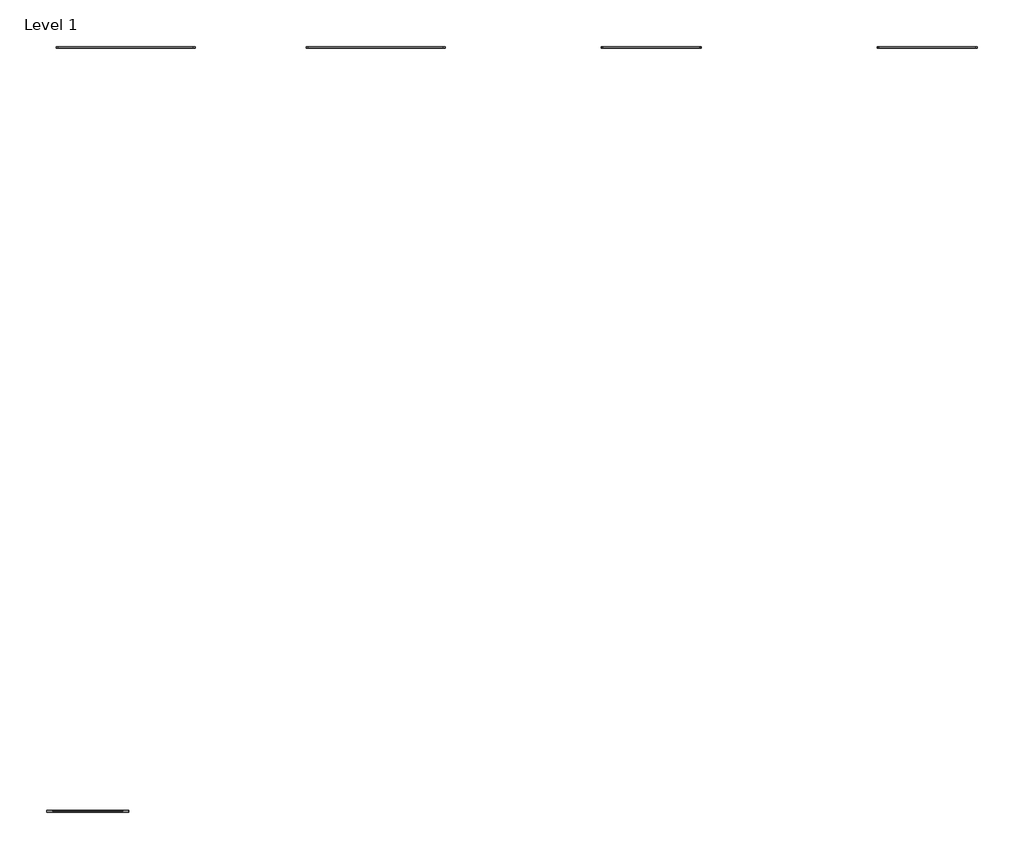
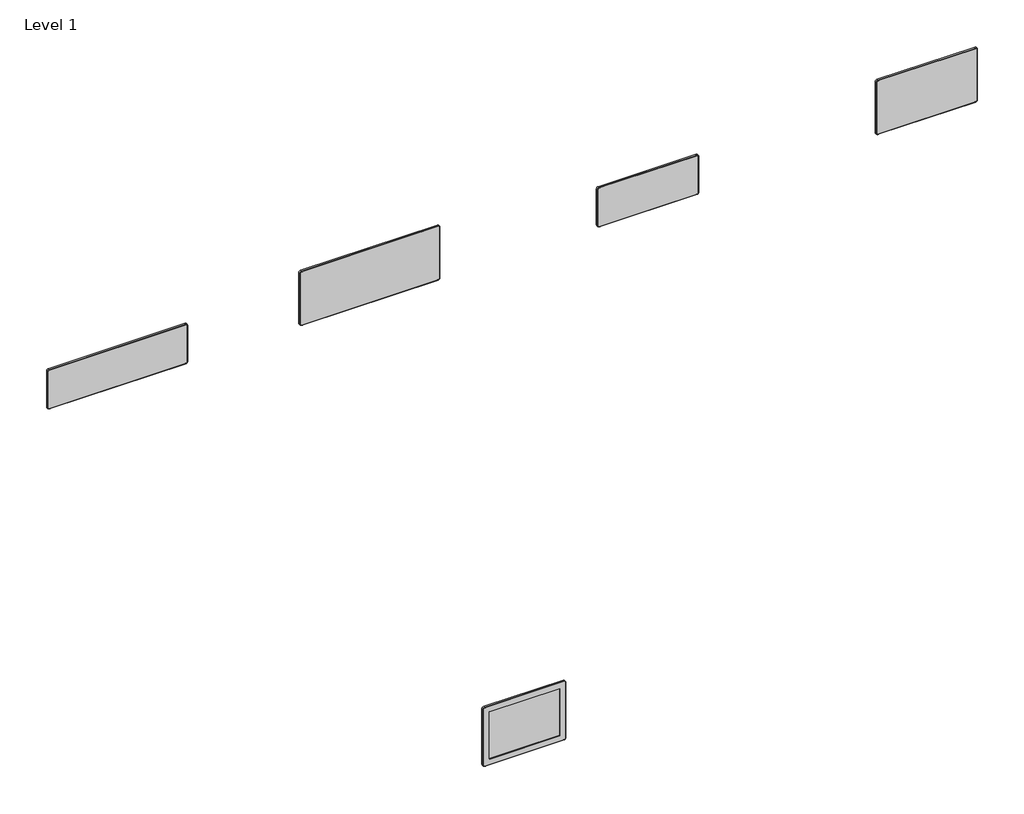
# One storey, incomplete: 5 furniture elements.
"""IFC4 building model written with IfcOpenShell, lengths in millimetres."""

from ifc_helpers import new_model, si_unit, origin, place, context, project, spatial, transform, mapped, element, save
from components import furniture_7bf03be5, furniture_7b053094, furniture_9835b887, furniture_f4d5e4fb, scc400_d04c1b15

model = new_model("IFC4")

# Units and contexts
model_context = context("Model", 3, world=origin())
ifc_project = project(units=[si_unit("LENGTHUNIT", "METRE", prefix="MILLI")], contexts=[model_context])

# Site, building, storey
site = spatial("IfcSite", under=ifc_project)
building = spatial("IfcBuilding", under=site)
storey = spatial("IfcBuildingStorey", under=building, Name="Level 1", Elevation=0.0)

# Furniture
placement = place(None, origin())
furniture_shape = furniture_7bf03be5(model_context)
element("IfcFurniture", 1, ObjectType="Stance_HC-Camber-Board : SK600E-SFB", at=placement, inside=storey, context=model_context, shape_type="MappedRepresentation", body=[
    mapped(furniture_shape, transform((-9148.9847969, -5274.6228413, 0.0), x_axis=(1.0, 0.0, 0.0), y_axis=(0.0, 1.0, 0.0), z_axis=(0.0, 0.0, 1.0))),
])
furniture_2_shape = furniture_7b053094(model_context)
element("IfcFurniture", 2, ObjectType="Stance_HC-Camber-Board : SK600E-SHB", at=placement, inside=storey, context=model_context, shape_type="MappedRepresentation", body=[
    mapped(furniture_2_shape, transform((-6418.564452, -5274.6228413, 0.0), x_axis=(1.0, 0.0, 0.0), y_axis=(0.0, 1.0, 0.0), z_axis=(0.0, 0.0, 1.0))),
])
furniture_3_shape = furniture_9835b887(model_context)
element("IfcFurniture", 3, ObjectType="Stance_HC-Camber-Board : SK600E-DFB", at=placement, inside=storey, context=model_context, shape_type="MappedRepresentation", body=[
    mapped(furniture_3_shape, transform((-14345.7026368, -5274.6228413, 0.0), x_axis=(1.0, 0.0, 0.0), y_axis=(0.0, 1.0, 0.0), z_axis=(0.0, 0.0, 1.0))),
])
furniture_4_shape = furniture_f4d5e4fb(model_context)
element("IfcFurniture", 4, ObjectType="Stance_HC-Camber-Board : SK600E-DHB", at=placement, inside=storey, context=model_context, shape_type="MappedRepresentation", body=[
    mapped(furniture_4_shape, transform((-11874.1653493, -5274.6228413, 0.0), x_axis=(1.0, 0.0, 0.0), y_axis=(0.0, 1.0, 0.0), z_axis=(0.0, 0.0, 1.0))),
])
scc400_shape = scc400_d04c1b15(model_context)
element("IfcFurniture", 5, ObjectType="Stance_HC-Camber-Mirror : SCC400", at=placement, inside=storey, context=model_context, shape_type="MappedRepresentation", body=[
    mapped(scc400_shape, transform((-14722.3898198, -12831.3733247, 0.0), x_axis=(1.0, 0.0, 0.0), y_axis=(0.0, 1.0, 0.0), z_axis=(0.0, 0.0, 1.0))),
])

save(model, "model.ifc")
